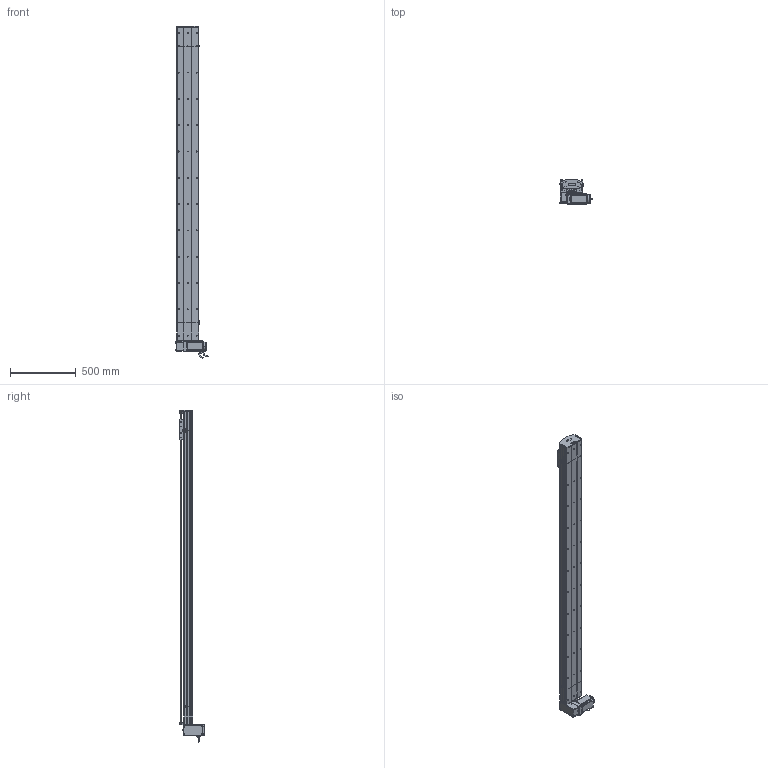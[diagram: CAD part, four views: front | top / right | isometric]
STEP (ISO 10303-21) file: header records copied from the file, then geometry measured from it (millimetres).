
FILE_DESCRIPTION (( 'STEP AP214' ), '1' );
FILE_NAME ('D17 TBH RU S2100.STEP', '2010-06-30T08:30:20', ( 'Christophe Gaillard' ), ( 'SGA' ), 'SwSTEP 2.0', 'SolidWorks 2010', '' );
FILE_SCHEMA (( 'AUTOMOTIVE_DESIGN' ));
Length unit declared in the file: millimetre
Products named in the file (40): poulie head_Default; avant 90BLDC125A-640; Moteur motionking 90BLDC125A-640; couroie head D17_Default; Conecteur2_Default; codeur 90BLDC125-640; corps 90BLDC125A-640; Plaque racord D17_Default; vis M5 L70_Default; Conecteur_Default; Renvoi RU_Default; cache arbre D17_Default; Vis M5 L16-2_Default; vis M5 L16_Default; tete d''axe poulie D17B; corp tail D17B+100_Default; Tail D17B+100_Default; poulie tail_Default; plaque de  bout tail D17B_Default; Rail D17B; vis M5 L8 90°_Default; couvercle D17B_Default; Couroie tail D17B_Default; vis M5 L25_Default; Arbre+rail head D17B; course 2100 D17B_Default; D17 TBH RU S2100; Couroie+ rail D17 Course 2100 ; plaque de  bout head D17B RU_Default; couvercle D17B head_Default; corpl head D17 _Default; Head RU D17B_Default; couvercle D17B course L2100_Default; vis M5 L5_Default; corp D17B 2100_Default; Chariot D17; chariot D17S_Default; guide D17; vis M5 L12_Default; cache D17_Default
Assembly tree (70 placements, depth 4):
  D17 TBH RU S2100
    Tail D17B+100_Default
      tete d''axe poulie D17B
      vis M5 L25_Default  x2
      vis M5 L12_Default  x4
      vis M5 L8 90°_Default  x2
      couvercle D17B_Default
      plaque de  bout tail D17B_Default
      corp tail D17B+100_Default
      Couroie tail D17B_Default
      Rail D17B
      poulie tail_Default
    chariot D17S_Default
      guide D17  x2
      vis M5 L12_Default  x4
      Chariot D17
    Head RU D17B_Default
      cache arbre D17_Default
      vis M5 L70_Default  x4
      vis M5 L12_Default  x8
      Vis M5 L16-2_Default  x4
      Plaque racord D17_Default
      vis M5 L5_Default  x4
      poulie head_Default
      vis M5 L25_Default  x2
      vis M5 L16_Default  x2
      couvercle D17B head_Default
      couroie head D17_Default
      corpl head D17 _Default
      cache D17_Default  x2
      Arbre+rail head D17B
      Renvoi RU_Default
      Moteur motionking 90BLDC125A-640
        avant 90BLDC125A-640
        Conecteur2_Default
        codeur 90BLDC125-640
        corps 90BLDC125A-640
        Conecteur_Default
      plaque de  bout head D17B RU_Default
    course 2100 D17B_Default
      couvercle D17B course L2100_Default
      corp D17B 2100_Default
      Couroie+ rail D17 Course 2100 
Bounding box: 245.2 x 188.65 x 2523.95 mm (x, y, z)
Volume: 14837076 mm3; surface area: 4269943.6 mm2
Topology: 94 solids, 94 shells, 2729 faces, 6927 edges, 4458 vertices
Faces by surface type: plane 1611, cylinder 805, bspline 136, cone 88, torus 85, sphere 4
Entity records: 85978 total; most frequent: CARTESIAN_POINT 25299, ORIENTED_EDGE 10626, DIRECTION 10070, EDGE_CURVE 5313, VECTOR 3504, LINE 3504, VERTEX_POINT 3482, AXIS2_PLACEMENT_3D 3283
